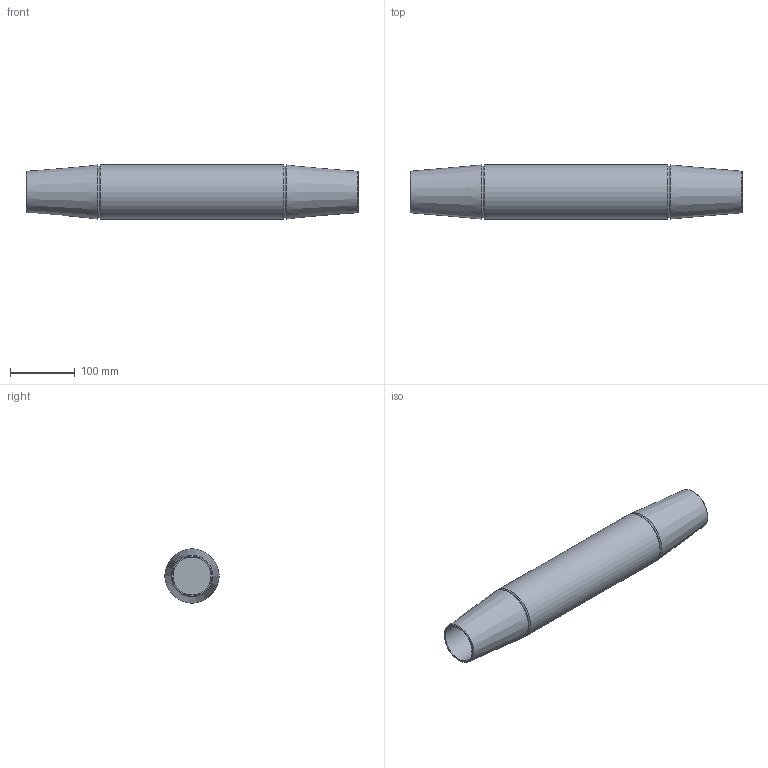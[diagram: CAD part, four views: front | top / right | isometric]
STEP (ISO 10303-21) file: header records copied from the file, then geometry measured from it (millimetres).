
FILE_DESCRIPTION(/* description */ (''),/* implementation_level */ '2;1');
FILE_NAME(/* name */ 'G:\Engineering\700 CAD\Internet-PX-1-step-igs-dxf\520-MUF-Arbeitsdateien\520-056-MUF.stp',/* time_stamp */ '2020-06-30T13:18:44+02:00',/* author */ ('schwarz'),/* organization */ (''),/* preprocessor_version */ 'ST-DEVELOPER v16.1',/* originating_system */ 'Autodesk Inventor 2016',/* authorisation */ '');
FILE_SCHEMA (('AUTOMOTIVE_DESIGN { 1 0 10303 214 3 1 1 }'));
Length unit declared in the file: centimetre
Products named in the file (1): Zusammenbau Muffe 520 056 Kunde
Bounding box: 514 x 84 x 84 mm (x, y, z)
Volume: 2117591.4 mm3; surface area: 167069 mm2
Topology: 1 solids, 1 shells, 15 faces, 25 edges, 14 vertices
Faces by surface type: cone 8, plane 4, cylinder 3
Full cylindrical faces by diameter (mm): 58.5 x2, 84 x1
Entity records: 347 total; most frequent: DIRECTION 60, CARTESIAN_POINT 44, AXIS2_PLACEMENT_3D 30, EDGE_LOOP 28, ORIENTED_EDGE 28, STYLED_ITEM 16, FACE_OUTER_BOUND 15, ADVANCED_FACE 15
